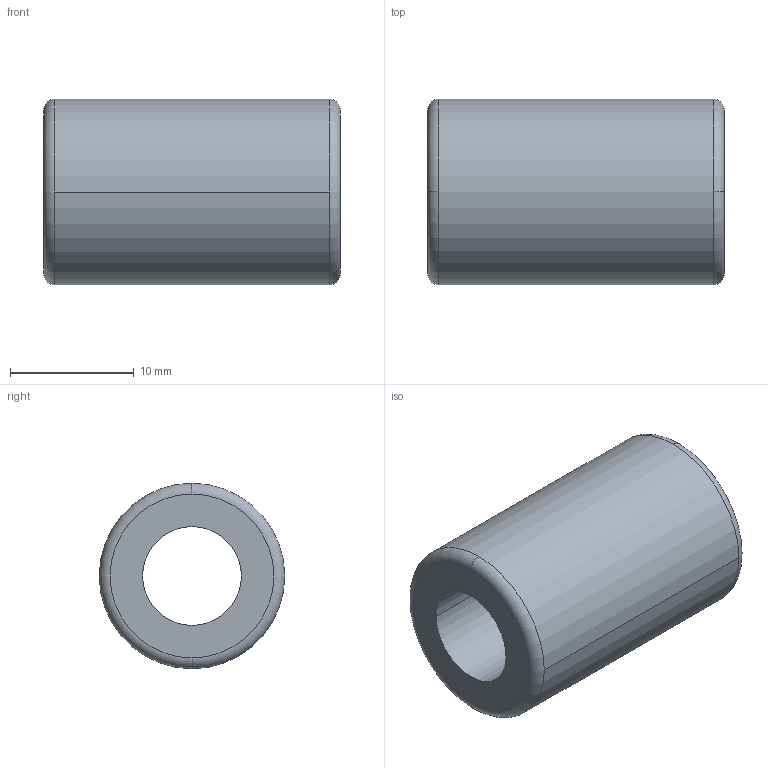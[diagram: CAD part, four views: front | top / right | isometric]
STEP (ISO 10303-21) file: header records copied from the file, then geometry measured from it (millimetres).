
FILE_DESCRIPTION (( 'STEP AP214' ), '1' );
FILE_NAME ('2.7069 Lineaarilaakeri KH8.STEP', '2024-06-12T11:10:37', ( '' ), ( '' ), 'SwSTEP 2.0', 'SolidWorks 2024', '' );
FILE_SCHEMA (( 'AUTOMOTIVE_DESIGN' ));
Length unit declared in the file: millimetre
Products named in the file (1): 2.7069 Lineaarilaakeri KH8
Bounding box: 24 x 15 x 15 mm (x, y, z)
Volume: 3019.7 mm3; surface area: 1951 mm2
Topology: 1 solids, 1 shells, 10 faces, 24 edges, 16 vertices
Faces by surface type: torus 4, cylinder 4, plane 2
Entity records: 335 total; most frequent: DIRECTION 66, CARTESIAN_POINT 51, ORIENTED_EDGE 48, AXIS2_PLACEMENT_3D 31, EDGE_CURVE 24, CIRCLE 20, VERTEX_POINT 16, EDGE_LOOP 12
